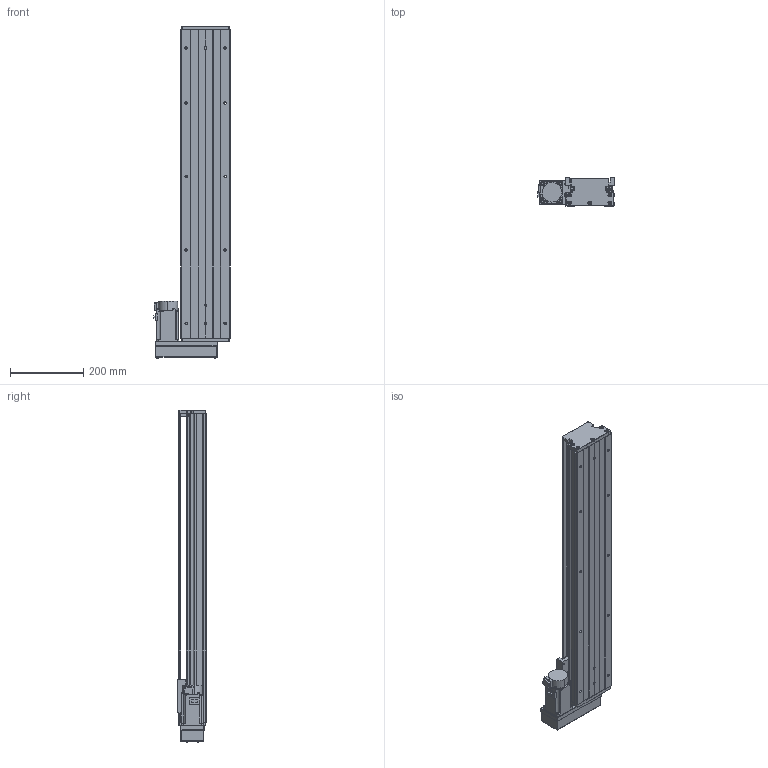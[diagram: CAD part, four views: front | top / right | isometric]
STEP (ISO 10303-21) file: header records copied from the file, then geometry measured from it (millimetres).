
FILE_DESCRIPTION (( 'STEP AP203' ), '1' );
FILE_NAME ('KTH130-700-BL-M40-C4.step', '2023-06-30T03:59:42', ( '微软用户' ), ( '微软中国' ), 'SwSTEP 2.0', 'SolidWorks 2020', '' );
FILE_SCHEMA (( 'CONFIG_CONTROL_DESIGN' ));
Length unit declared in the file: millimetre
Products named in the file (19): GTH14-001_700; CTHA60-017; HG-KN43J-S100; KTH130-002_KTH130-002; EE_SX911P_R; GBT 70.2-M4¡Á35_M4¡Á35; KTH130-004; CTHA60-016; GTH14-015-2_CTHA86-015-2; KTH130-005; GBT 70.1-M3℅5; GTH14-033; GB1155-6X6; GBT77-2000 M3×3; KTH130-700-BL-M40-C4; GBT70.1 M5℅16; す晦芛蹟隊 M3℅5; GBT 70.2-M3¡Á5_M3¡Á6; GBT 70.3-M3℅8
Assembly tree (53 placements, depth 2):
  KTH130-700-BL-M40-C4
    GTH14-001_700
    KTH130-002_KTH130-002
    KTH130-004
    KTH130-005
    GB1155-6X6  x2
    GBT70.1 M5℅16  x10
    GBT 70.2-M3¡Á5_M3¡Á6  x4
    CTHA60-017  x3
    EE_SX911P_R  x3
    CTHA60-016  x2
    GBT 70.1-M3℅5  x6
    GBT77-2000 M3×3  x6
    す晦芛蹟隊 M3℅5  x2
    GBT 70.3-M3℅8  x4
    HG-KN43J-S100
    GBT 70.2-M4¡Á35_M4¡Á35  x4
    GTH14-015-2_CTHA86-015-2
    GTH14-033
Bounding box: 209.3 x 78 x 904.2 mm (x, y, z)
Volume: 5154309.4 mm3; surface area: 838592.3 mm2
Topology: 56 solids, 56 shells, 2223 faces, 5366 edges, 3342 vertices
Faces by surface type: plane 1197, cylinder 612, cone 290, torus 100, sphere 24
Entity records: 40558 total; most frequent: CARTESIAN_POINT 8634, DIRECTION 6039, ORIENTED_EDGE 5932, EDGE_CURVE 2966, AXIS2_PLACEMENT_3D 2078, VERTEX_POINT 1895, LINE 1883, VECTOR 1883
